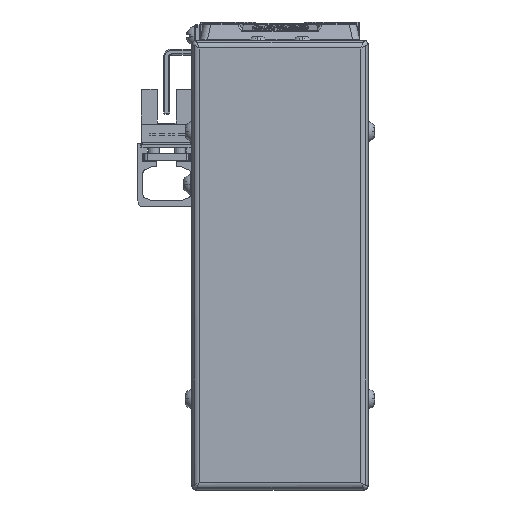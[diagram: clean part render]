
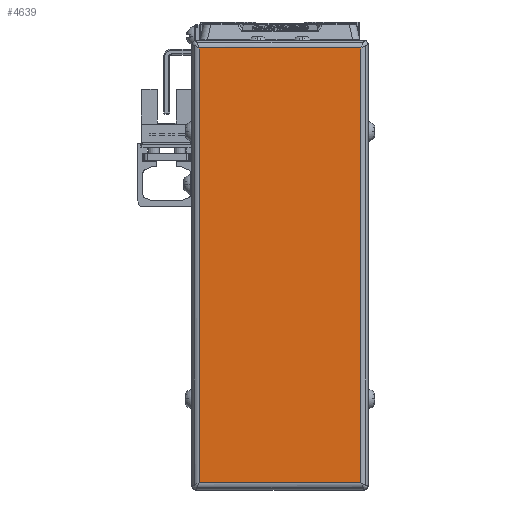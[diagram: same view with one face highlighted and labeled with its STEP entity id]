
A CAD part, left-side view. The second image highlights one B-rep face of the part: STEP entity #4639.
In plain terms, the highlighted planar face has unit normal (-1, 0, 0).
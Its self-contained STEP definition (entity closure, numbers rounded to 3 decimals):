
#4639=ADVANCED_FACE('',(#10392),#10393,.T.);
#10392=FACE_OUTER_BOUND('',#18745,.T.);
#10393=PLANE('',#18746);
#18745=EDGE_LOOP('',(#33791,#33792,#33793,#33794));
#18746=AXIS2_PLACEMENT_3D('',#33795,#33796,#33797);
#33791=ORIENTED_EDGE('',*,*,#49198,.F.);
#33792=ORIENTED_EDGE('',*,*,#49274,.F.);
#33793=ORIENTED_EDGE('',*,*,#48544,.F.);
#33794=ORIENTED_EDGE('',*,*,#49275,.F.);
#33795=CARTESIAN_POINT('',(-48.,0.,-42.5));
#33796=DIRECTION('',(-1.0,0.,0.));
#33797=DIRECTION('',(0.,0.,1.0));
#48544=EDGE_CURVE('',#59248,#59250,#59251,.T.);
#49198=EDGE_CURVE('',#60146,#60148,#60149,.T.);
#49274=EDGE_CURVE('',#59250,#60146,#60251,.T.);
#49275=EDGE_CURVE('',#60148,#59248,#60252,.T.);
#59248=VERTEX_POINT('',#73833);
#59250=VERTEX_POINT('',#73835);
#59251=LINE('',#73836,#73837);
#60146=VERTEX_POINT('',#75287);
#60148=VERTEX_POINT('',#75289);
#60149=LINE('',#75290,#75291);
#60251=LINE('',#75425,#75426);
#60252=LINE('',#75427,#75428);
#73833=CARTESIAN_POINT('',(-48.,-21.7,-101.0));
#73835=CARTESIAN_POINT('',(-48.,21.7,-101.0));
#73836=CARTESIAN_POINT('',(-48.,0.,-101.0));
#73837=VECTOR('',#85894,10.0);
#75287=CARTESIAN_POINT('',(-48.,21.7,16.));
#75289=CARTESIAN_POINT('',(-48.,-21.7,16.));
#75290=CARTESIAN_POINT('',(-48.,0.,16.));
#75291=VECTOR('',#86662,10.0);
#75425=CARTESIAN_POINT('',(-48.,21.7,-42.5));
#75426=VECTOR('',#86758,10.0);
#75427=CARTESIAN_POINT('',(-48.,-21.7,-42.5));
#75428=VECTOR('',#86759,10.0);
#85894=DIRECTION('',(0.,1.0,0.));
#86662=DIRECTION('',(0.,-1.0,0.));
#86758=DIRECTION('',(0.,0.,1.0));
#86759=DIRECTION('',(0.,0.,-1.0));
